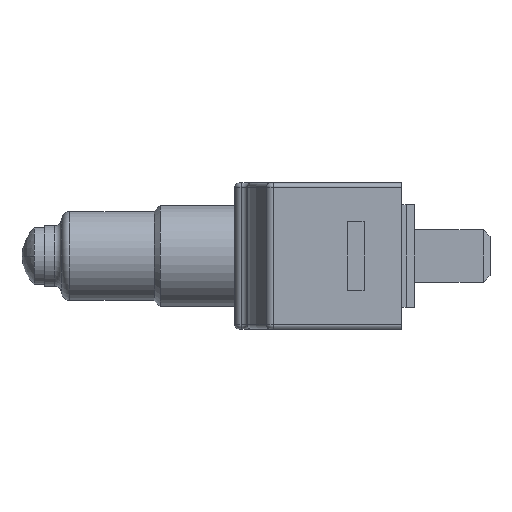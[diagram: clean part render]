
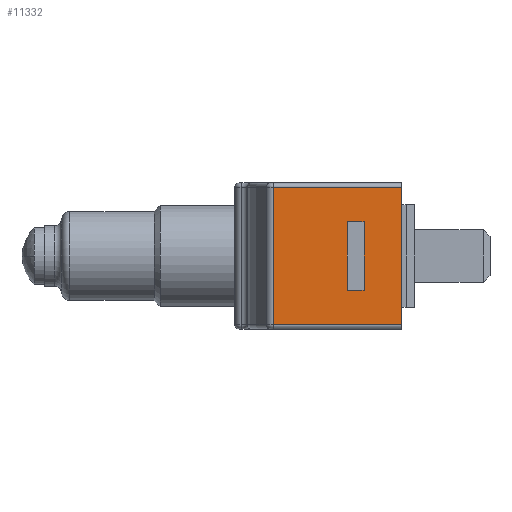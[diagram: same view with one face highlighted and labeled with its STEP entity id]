
A CAD part, left-side view. The second image highlights one B-rep face of the part: STEP entity #11332.
In plain terms, the highlighted planar face has unit normal (-1, 0, 0).
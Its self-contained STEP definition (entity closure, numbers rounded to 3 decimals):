
#1566 = CARTESIAN_POINT ( 'NONE',  ( -35.2, -3.8, -8.2 ) ) ;
#1567 = DIRECTION ( 'NONE',  ( 0., -1., 0. ) ) ;
#1568 = VECTOR ( 'NONE', #1567, 1000. ) ;
#1569 = CARTESIAN_POINT ( 'NONE',  ( -35.2, 11.461, -8.2 ) ) ;
#1570 = LINE ( 'NONE', #1569, #1568 ) ;
#1571 = CARTESIAN_POINT ( 'NONE',  ( -35.2, 11.461, -8.2 ) ) ;
#1572 = CARTESIAN_POINT ( 'NONE',  ( -35.2, 11.461, 8.2 ) ) ;
#1573 = DIRECTION ( 'NONE',  ( 0., 0., -1. ) ) ;
#1574 = VECTOR ( 'NONE', #1573, 1000. ) ;
#1575 = CARTESIAN_POINT ( 'NONE',  ( -35.2, 11.461, 8.7 ) ) ;
#1576 = DIRECTION ( 'NONE',  ( 0., 0., -1. ) ) ;
#1577 = DIRECTION ( 'NONE',  ( 1., 0., 0. ) ) ;
#1578 = CARTESIAN_POINT ( 'NONE',  ( -35.2, 11.461, 8.7 ) ) ;
#1579 = LINE ( 'NONE', #1575, #1574 ) ;
#1580 = AXIS2_PLACEMENT_3D ( 'NONE', #1578, #1577, #1576 ) ;
#1581 = PLANE ( 'NONE',  #1580 ) ;
#1582 = FACE_BOUND ( 'NONE', #11394, .T. ) ;
#1583 = FACE_OUTER_BOUND ( 'NONE', #11333, .T. ) ;
#1615 = CARTESIAN_POINT ( 'NONE',  ( -35.2, 0.7, 4.1 ) ) ;
#1670 = LINE ( 'NONE', #1732, #1731 ) ;
#1673 = CARTESIAN_POINT ( 'NONE',  ( -35.2, -3.8, 8.2 ) ) ;
#1675 = DIRECTION ( 'NONE',  ( 0., 0., -1. ) ) ;
#1676 = VECTOR ( 'NONE', #1675, 1000. ) ;
#1677 = CARTESIAN_POINT ( 'NONE',  ( -35.2, -3.8, 8.7 ) ) ;
#1678 = LINE ( 'NONE', #1677, #1676 ) ;
#1730 = DIRECTION ( 'NONE',  ( 0., 1., 0. ) ) ;
#1731 = VECTOR ( 'NONE', #1730, 1000. ) ;
#1732 = CARTESIAN_POINT ( 'NONE',  ( -35.2, 11.461, 8.2 ) ) ;
#1776 = CARTESIAN_POINT ( 'NONE',  ( -35.2, 0.7, -4.1 ) ) ;
#1803 = DIRECTION ( 'NONE',  ( 0., 0., -1. ) ) ;
#1804 = VECTOR ( 'NONE', #1803, 1000. ) ;
#1805 = CARTESIAN_POINT ( 'NONE',  ( -35.2, 0.7, 4.1 ) ) ;
#1806 = LINE ( 'NONE', #1805, #1804 ) ;
#1813 = DIRECTION ( 'NONE',  ( 0., -1., 0. ) ) ;
#1814 = VECTOR ( 'NONE', #1813, 1000. ) ;
#1815 = CARTESIAN_POINT ( 'NONE',  ( -35.2, 2.7, 4.1 ) ) ;
#1816 = LINE ( 'NONE', #1815, #1814 ) ;
#1817 = CARTESIAN_POINT ( 'NONE',  ( -35.2, 2.7, -4.1 ) ) ;
#1819 = CARTESIAN_POINT ( 'NONE',  ( -35.2, 2.7, 4.1 ) ) ;
#1821 = DIRECTION ( 'NONE',  ( 0., 1., 0. ) ) ;
#1822 = VECTOR ( 'NONE', #1821, 1000. ) ;
#1823 = CARTESIAN_POINT ( 'NONE',  ( -35.2, 2.7, -4.1 ) ) ;
#1824 = LINE ( 'NONE', #1823, #1822 ) ;
#1830 = DIRECTION ( 'NONE',  ( 0., 0., 1. ) ) ;
#1831 = VECTOR ( 'NONE', #1830, 1000. ) ;
#1832 = CARTESIAN_POINT ( 'NONE',  ( -35.2, 2.7, 4.1 ) ) ;
#1833 = LINE ( 'NONE', #1832, #1831 ) ;
#11332 = ADVANCED_FACE ( 'NONE', ( #1583, #1582 ), #1581, .F. ) ;
#11333 = EDGE_LOOP ( 'NONE', ( #11334, #11338, #11389, #11392 ) ) ;
#11334 = ORIENTED_EDGE ( 'NONE', *, *, #11335, .T. ) ;
#11335 = EDGE_CURVE ( 'NONE', #11336, #11337, #1579, .T. ) ;
#11336 = VERTEX_POINT ( 'NONE', #1572 ) ;
#11337 = VERTEX_POINT ( 'NONE', #1571 ) ;
#11338 = ORIENTED_EDGE ( 'NONE', *, *, #11339, .T. ) ;
#11339 = EDGE_CURVE ( 'NONE', #11337, #11340, #1570, .T. ) ;
#11340 = VERTEX_POINT ( 'NONE', #1566 ) ;
#11357 = VERTEX_POINT ( 'NONE', #1615 ) ;
#11371 = ORIENTED_EDGE ( 'NONE', *, *, #11434, .T. ) ;
#11389 = ORIENTED_EDGE ( 'NONE', *, *, #11390, .F. ) ;
#11390 = EDGE_CURVE ( 'NONE', #11391, #11340, #1678, .T. ) ;
#11391 = VERTEX_POINT ( 'NONE', #1673 ) ;
#11392 = ORIENTED_EDGE ( 'NONE', *, *, #11393, .T. ) ;
#11393 = EDGE_CURVE ( 'NONE', #11391, #11336, #1670, .T. ) ;
#11394 = EDGE_LOOP ( 'NONE', ( #11414, #11431, #11371, #11425 ) ) ;
#11414 = ORIENTED_EDGE ( 'NONE', *, *, #11440, .T. ) ;
#11415 = EDGE_CURVE ( 'NONE', #11357, #11428, #1806, .T. ) ;
#11425 = ORIENTED_EDGE ( 'NONE', *, *, #11429, .T. ) ;
#11428 = VERTEX_POINT ( 'NONE', #1776 ) ;
#11429 = EDGE_CURVE ( 'NONE', #11439, #11437, #1833, .T. ) ;
#11431 = ORIENTED_EDGE ( 'NONE', *, *, #11415, .T. ) ;
#11434 = EDGE_CURVE ( 'NONE', #11428, #11439, #1824, .T. ) ;
#11437 = VERTEX_POINT ( 'NONE', #1819 ) ;
#11439 = VERTEX_POINT ( 'NONE', #1817 ) ;
#11440 = EDGE_CURVE ( 'NONE', #11437, #11357, #1816, .T. ) ;
